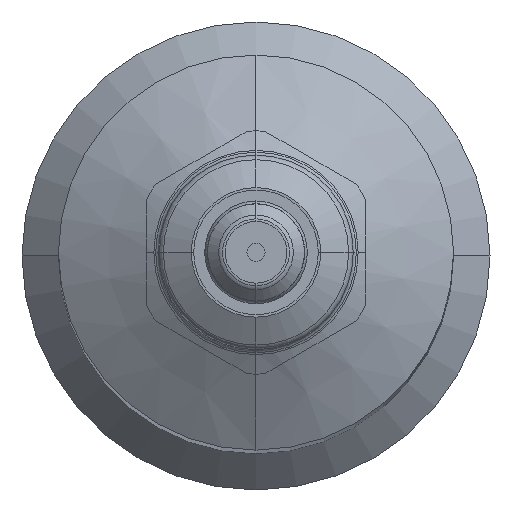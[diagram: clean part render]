
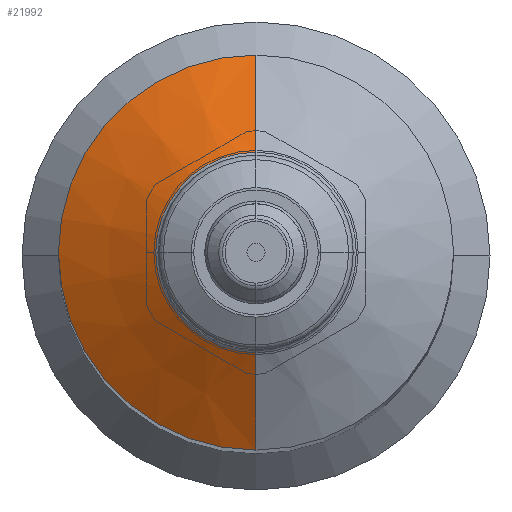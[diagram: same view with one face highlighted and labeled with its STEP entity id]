
A CAD part, top view. The second image highlights one B-rep face of the part: STEP entity #21992.
In plain terms, the highlighted conical face has half-angle 60 degrees and reference radius 32.5 mm.
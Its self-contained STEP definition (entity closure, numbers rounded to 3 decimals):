
#509 = EDGE_LOOP ( 'NONE', ( #1593, #1586, #1604, #1591, #1600 ) ) ;
#1116 = CARTESIAN_POINT ( 'NONE',  ( 0., 0., 372.274 ) ) ;
#1117 = DIRECTION ( 'NONE',  ( 0., 0., 1. ) ) ;
#1118 = DIRECTION ( 'NONE',  ( 0., 1., 0. ) ) ;
#1139 = CARTESIAN_POINT ( 'NONE',  ( 0., 0., 381.511 ) ) ;
#1140 = DIRECTION ( 'NONE',  ( 0., 0., 1. ) ) ;
#1141 = DIRECTION ( 'NONE',  ( 0., 1., 0. ) ) ;
#1154 = CARTESIAN_POINT ( 'NONE',  ( 0., 0., 372.274 ) ) ;
#1155 = DIRECTION ( 'NONE',  ( 0., 0., 1. ) ) ;
#1156 = DIRECTION ( 'NONE',  ( 0., 1., 0. ) ) ;
#1166 = CARTESIAN_POINT ( 'NONE',  ( 0., 32.5, 372.274 ) ) ;
#1167 = DIRECTION ( 'NONE',  ( 0., 0.866, -0.5 ) ) ;
#1208 = CARTESIAN_POINT ( 'NONE',  ( 0., -32.5, 372.274 ) ) ;
#1209 = DIRECTION ( 'NONE',  ( 0., -0.866, -0.5 ) ) ;
#1586 = ORIENTED_EDGE ( 'NONE', *, *, #14141, .T. ) ;
#1591 = ORIENTED_EDGE ( 'NONE', *, *, #14124, .T. ) ;
#1593 = ORIENTED_EDGE ( 'NONE', *, *, #14132, .F. ) ;
#1600 = ORIENTED_EDGE ( 'NONE', *, *, #14157, .F. ) ;
#1604 = ORIENTED_EDGE ( 'NONE', *, *, #14137, .T. ) ;
#6438 = CIRCLE ( 'NONE', #14574, 32.5 ) ;
#6466 = CIRCLE ( 'NONE', #14591, 16.5 ) ;
#6483 = CIRCLE ( 'NONE', #8755, 32.5 ) ;
#6492 = LINE ( 'NONE', #1166, #6496 ) ;
#6496 = VECTOR ( 'NONE', #1167, 1000. ) ;
#6555 = LINE ( 'NONE', #1208, #6557 ) ;
#6557 = VECTOR ( 'NONE', #1209, 1000. ) ;
#8755 = AXIS2_PLACEMENT_3D ( 'NONE', #1154, #1155, #1156 ) ;
#9121 = AXIS2_PLACEMENT_3D ( 'NONE', #11323, #11324, #11325 ) ;
#10883 = FACE_OUTER_BOUND ( 'NONE', #509, .T. ) ;
#10889 = CONICAL_SURFACE ( 'NONE', #9121, 32.5, 1.047 ) ;
#11323 = CARTESIAN_POINT ( 'NONE',  ( 0., 0., 372.274 ) ) ;
#11324 = DIRECTION ( 'NONE',  ( 0., 0., -1. ) ) ;
#11325 = DIRECTION ( 'NONE',  ( 0., -1., 0. ) ) ;
#14124 = EDGE_CURVE ( 'NONE', #22252, #22264, #6438, .T. ) ;
#14132 = EDGE_CURVE ( 'NONE', #22271, #22229, #6466, .T. ) ;
#14137 = EDGE_CURVE ( 'NONE', #22257, #22252, #6483, .T. ) ;
#14141 = EDGE_CURVE ( 'NONE', #22271, #22257, #6492, .T. ) ;
#14157 = EDGE_CURVE ( 'NONE', #22229, #22264, #6555, .T. ) ;
#14574 = AXIS2_PLACEMENT_3D ( 'NONE', #1116, #1117, #1118 ) ;
#14591 = AXIS2_PLACEMENT_3D ( 'NONE', #1139, #1140, #1141 ) ;
#18261 = CARTESIAN_POINT ( 'NONE',  ( 0., -16.5, 381.511 ) ) ;
#18284 = CARTESIAN_POINT ( 'NONE',  ( -32.5, 0., 372.274 ) ) ;
#18289 = CARTESIAN_POINT ( 'NONE',  ( 0., 32.5, 372.274 ) ) ;
#18296 = CARTESIAN_POINT ( 'NONE',  ( 0., -32.5, 372.274 ) ) ;
#18303 = CARTESIAN_POINT ( 'NONE',  ( 0., 16.5, 381.511 ) ) ;
#21992 = ADVANCED_FACE ( 'NONE', ( #10883 ), #10889, .T. ) ;
#22229 = VERTEX_POINT ( 'NONE', #18261 ) ;
#22252 = VERTEX_POINT ( 'NONE', #18284 ) ;
#22257 = VERTEX_POINT ( 'NONE', #18289 ) ;
#22264 = VERTEX_POINT ( 'NONE', #18296 ) ;
#22271 = VERTEX_POINT ( 'NONE', #18303 ) ;
